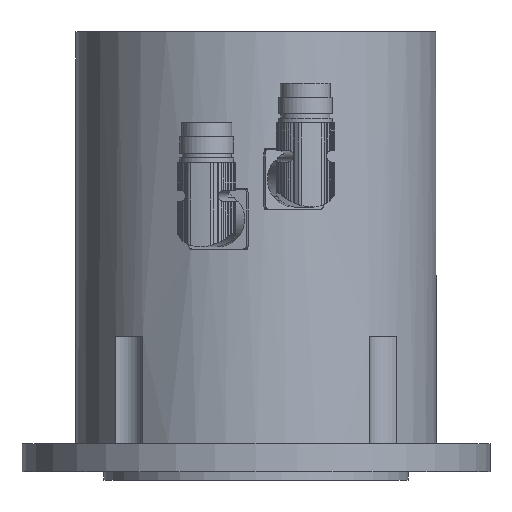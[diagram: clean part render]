
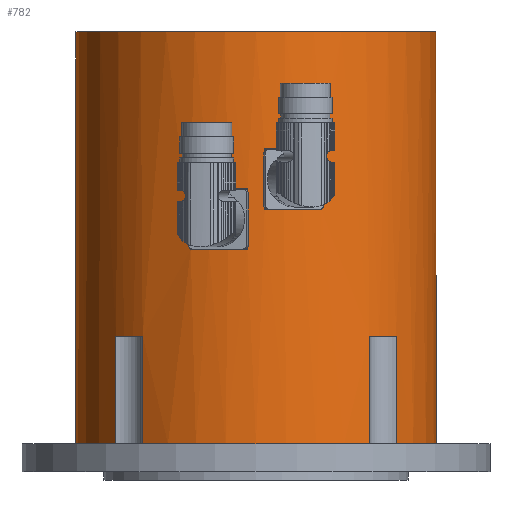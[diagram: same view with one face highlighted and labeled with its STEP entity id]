
A CAD part, left-side view. The second image highlights one B-rep face of the part: STEP entity #782.
In plain terms, the highlighted cylindrical face has radius 77 mm (diameter 154 mm), a full revolution.
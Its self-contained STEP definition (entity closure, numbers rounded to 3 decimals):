
#225=LINE('',#5369,#401);
#226=LINE('',#5371,#402);
#229=LINE('',#5382,#405);
#230=LINE('',#5384,#406);
#232=LINE('',#5390,#408);
#233=LINE('',#5395,#409);
#234=LINE('',#5399,#410);
#235=LINE('',#5403,#411);
#236=LINE('',#5407,#412);
#237=LINE('',#5411,#413);
#238=LINE('',#5415,#414);
#239=LINE('',#5419,#415);
#401=VECTOR('',#4343,1.);
#402=VECTOR('',#4344,1.);
#405=VECTOR('',#4357,1.);
#406=VECTOR('',#4358,1.);
#408=VECTOR('',#4366,1.);
#409=VECTOR('',#4369,1.);
#410=VECTOR('',#4372,1.);
#411=VECTOR('',#4375,1.);
#412=VECTOR('',#4378,1.);
#413=VECTOR('',#4381,1.);
#414=VECTOR('',#4384,1.);
#415=VECTOR('',#4387,1.);
#591=CYLINDRICAL_SURFACE('',#3848,77.);
#782=ADVANCED_FACE('',(#1056,#1057,#1058,#1059),#591,.T.);
#1056=FACE_BOUND('',#1351,.T.);
#1057=FACE_BOUND('',#1352,.T.);
#1058=FACE_BOUND('',#1353,.T.);
#1059=FACE_BOUND('',#1354,.T.);
#1351=EDGE_LOOP('',(#1634,#1635,#1636,#1637,#1638,#1639,#1640,#1641,#1642,
#1643,#1644,#1645,#1646,#1647,#1648,#1649));
#1352=EDGE_LOOP('',(#1650));
#1353=EDGE_LOOP('',(#1651,#1652,#1653,#1654));
#1354=EDGE_LOOP('',(#1655,#1656,#1657,#1658));
#1634=ORIENTED_EDGE('',*,*,#3052,.F.);
#1635=ORIENTED_EDGE('',*,*,#3053,.F.);
#1636=ORIENTED_EDGE('',*,*,#3054,.F.);
#1637=ORIENTED_EDGE('',*,*,#3055,.F.);
#1638=ORIENTED_EDGE('',*,*,#3056,.F.);
#1639=ORIENTED_EDGE('',*,*,#3057,.F.);
#1640=ORIENTED_EDGE('',*,*,#3058,.F.);
#1641=ORIENTED_EDGE('',*,*,#3059,.F.);
#1642=ORIENTED_EDGE('',*,*,#3060,.F.);
#1643=ORIENTED_EDGE('',*,*,#3061,.F.);
#1644=ORIENTED_EDGE('',*,*,#3062,.F.);
#1645=ORIENTED_EDGE('',*,*,#3063,.F.);
#1646=ORIENTED_EDGE('',*,*,#3064,.F.);
#1647=ORIENTED_EDGE('',*,*,#3065,.F.);
#1648=ORIENTED_EDGE('',*,*,#3066,.F.);
#1649=ORIENTED_EDGE('',*,*,#3067,.F.);
#1650=ORIENTED_EDGE('',*,*,#3039,.T.);
#1651=ORIENTED_EDGE('',*,*,#3051,.F.);
#1652=ORIENTED_EDGE('',*,*,#3049,.F.);
#1653=ORIENTED_EDGE('',*,*,#3047,.F.);
#1654=ORIENTED_EDGE('',*,*,#3048,.F.);
#1655=ORIENTED_EDGE('',*,*,#3045,.F.);
#1656=ORIENTED_EDGE('',*,*,#3043,.F.);
#1657=ORIENTED_EDGE('',*,*,#3041,.F.);
#1658=ORIENTED_EDGE('',*,*,#3042,.F.);
#2664=VERTEX_POINT('',#5362);
#2665=VERTEX_POINT('',#5365);
#2666=VERTEX_POINT('',#5366);
#2667=VERTEX_POINT('',#5370);
#2668=VERTEX_POINT('',#5372);
#2669=VERTEX_POINT('',#5378);
#2670=VERTEX_POINT('',#5379);
#2671=VERTEX_POINT('',#5383);
#2672=VERTEX_POINT('',#5385);
#2673=VERTEX_POINT('',#5391);
#2674=VERTEX_POINT('',#5392);
#2675=VERTEX_POINT('',#5394);
#2676=VERTEX_POINT('',#5396);
#2677=VERTEX_POINT('',#5398);
#2678=VERTEX_POINT('',#5400);
#2679=VERTEX_POINT('',#5402);
#2680=VERTEX_POINT('',#5404);
#2681=VERTEX_POINT('',#5406);
#2682=VERTEX_POINT('',#5408);
#2683=VERTEX_POINT('',#5410);
#2684=VERTEX_POINT('',#5412);
#2685=VERTEX_POINT('',#5414);
#2686=VERTEX_POINT('',#5416);
#2687=VERTEX_POINT('',#5418);
#2688=VERTEX_POINT('',#5420);
#3039=EDGE_CURVE('',#2664,#2664,#3577,.T.);
#3041=EDGE_CURVE('',#2665,#2666,#3578,.T.);
#3042=EDGE_CURVE('',#2667,#2665,#225,.T.);
#3043=EDGE_CURVE('',#2666,#2668,#226,.T.);
#3045=EDGE_CURVE('',#2668,#2667,#3579,.T.);
#3047=EDGE_CURVE('',#2669,#2670,#3580,.T.);
#3048=EDGE_CURVE('',#2671,#2669,#229,.T.);
#3049=EDGE_CURVE('',#2670,#2672,#230,.T.);
#3051=EDGE_CURVE('',#2672,#2671,#3581,.T.);
#3052=EDGE_CURVE('',#2673,#2674,#232,.T.);
#3053=EDGE_CURVE('',#2675,#2673,#3582,.T.);
#3054=EDGE_CURVE('',#2676,#2675,#233,.T.);
#3055=EDGE_CURVE('',#2677,#2676,#3583,.T.);
#3056=EDGE_CURVE('',#2678,#2677,#234,.T.);
#3057=EDGE_CURVE('',#2679,#2678,#3584,.T.);
#3058=EDGE_CURVE('',#2680,#2679,#235,.T.);
#3059=EDGE_CURVE('',#2681,#2680,#3585,.T.);
#3060=EDGE_CURVE('',#2682,#2681,#236,.T.);
#3061=EDGE_CURVE('',#2683,#2682,#3586,.T.);
#3062=EDGE_CURVE('',#2684,#2683,#237,.T.);
#3063=EDGE_CURVE('',#2685,#2684,#3587,.T.);
#3064=EDGE_CURVE('',#2686,#2685,#238,.T.);
#3065=EDGE_CURVE('',#2687,#2686,#3588,.T.);
#3066=EDGE_CURVE('',#2688,#2687,#239,.T.);
#3067=EDGE_CURVE('',#2674,#2688,#3589,.T.);
#3577=CIRCLE('',#3828,77.);
#3578=CIRCLE('',#3830,77.);
#3579=CIRCLE('',#3833,77.);
#3580=CIRCLE('',#3835,77.);
#3581=CIRCLE('',#3838,77.);
#3582=CIRCLE('',#3840,77.);
#3583=CIRCLE('',#3841,77.);
#3584=CIRCLE('',#3842,77.);
#3585=CIRCLE('',#3843,77.);
#3586=CIRCLE('',#3844,77.);
#3587=CIRCLE('',#3845,77.);
#3588=CIRCLE('',#3846,77.);
#3589=CIRCLE('',#3847,77.);
#3828=AXIS2_PLACEMENT_3D('',#5361,#4334,#4335);
#3830=AXIS2_PLACEMENT_3D('',#5367,#4339,#4340);
#3833=AXIS2_PLACEMENT_3D('',#5375,#4348,#4349);
#3835=AXIS2_PLACEMENT_3D('',#5380,#4353,#4354);
#3838=AXIS2_PLACEMENT_3D('',#5388,#4362,#4363);
#3840=AXIS2_PLACEMENT_3D('',#5393,#4367,#4368);
#3841=AXIS2_PLACEMENT_3D('',#5397,#4370,#4371);
#3842=AXIS2_PLACEMENT_3D('',#5401,#4373,#4374);
#3843=AXIS2_PLACEMENT_3D('',#5405,#4376,#4377);
#3844=AXIS2_PLACEMENT_3D('',#5409,#4379,#4380);
#3845=AXIS2_PLACEMENT_3D('',#5413,#4382,#4383);
#3846=AXIS2_PLACEMENT_3D('',#5417,#4385,#4386);
#3847=AXIS2_PLACEMENT_3D('',#5421,#4388,#4389);
#3848=AXIS2_PLACEMENT_3D('',#5422,#4390,#4391);
#4334=DIRECTION('',(0.,0.,-1.));
#4335=DIRECTION('',(-1.,0.,0.));
#4339=DIRECTION('',(0.,0.,1.));
#4340=DIRECTION('',(-1.,0.,0.));
#4343=DIRECTION('',(0.,0.,-1.));
#4344=DIRECTION('',(0.,0.,1.));
#4348=DIRECTION('',(0.,0.,-1.));
#4349=DIRECTION('',(1.,0.,0.));
#4353=DIRECTION('',(0.,0.,1.));
#4354=DIRECTION('',(-1.,0.,0.));
#4357=DIRECTION('',(0.,0.,-1.));
#4358=DIRECTION('',(0.,0.,1.));
#4362=DIRECTION('',(0.,0.,-1.));
#4363=DIRECTION('',(1.,0.,0.));
#4366=DIRECTION('',(0.,0.,1.));
#4367=DIRECTION('',(0.,0.,-1.));
#4368=DIRECTION('',(1.,0.,0.));
#4369=DIRECTION('',(0.,0.,-1.));
#4370=DIRECTION('',(0.,0.,-1.));
#4371=DIRECTION('',(-1.,0.,0.));
#4372=DIRECTION('',(0.,0.,1.));
#4373=DIRECTION('',(0.,0.,-1.));
#4374=DIRECTION('',(1.,0.,0.));
#4375=DIRECTION('',(0.,0.,-1.));
#4376=DIRECTION('',(0.,0.,-1.));
#4377=DIRECTION('',(-1.,0.,0.));
#4378=DIRECTION('',(0.,0.,1.));
#4379=DIRECTION('',(0.,0.,-1.));
#4380=DIRECTION('',(1.,0.,0.));
#4381=DIRECTION('',(0.,0.,-1.));
#4382=DIRECTION('',(0.,0.,-1.));
#4383=DIRECTION('',(-1.,0.,0.));
#4384=DIRECTION('',(0.,0.,1.));
#4385=DIRECTION('',(0.,0.,-1.));
#4386=DIRECTION('',(1.,0.,0.));
#4387=DIRECTION('',(0.,0.,-1.));
#4388=DIRECTION('',(0.,0.,-1.));
#4389=DIRECTION('',(-1.,0.,0.));
#4390=DIRECTION('',(0.,0.,1.));
#4391=DIRECTION('',(1.,0.,0.));
#5361=CARTESIAN_POINT('',(0.,0.,176.));
#5362=CARTESIAN_POINT('',(-77.,0.,176.));
#5365=CARTESIAN_POINT('',(-71.767,27.9,83.));
#5366=CARTESIAN_POINT('',(-76.911,3.702,83.));
#5367=CARTESIAN_POINT('',(0.,0.,83.));
#5369=CARTESIAN_POINT('',(-71.767,27.9,0.));
#5370=CARTESIAN_POINT('',(-71.767,27.9,109.));
#5371=CARTESIAN_POINT('',(-76.911,3.702,0.));
#5372=CARTESIAN_POINT('',(-76.911,3.702,109.));
#5375=CARTESIAN_POINT('',(0.,0.,109.));
#5378=CARTESIAN_POINT('',(-76.911,-3.702,100.));
#5379=CARTESIAN_POINT('',(-71.767,-27.9,100.));
#5380=CARTESIAN_POINT('',(0.,0.,100.));
#5382=CARTESIAN_POINT('',(-76.911,-3.702,0.));
#5383=CARTESIAN_POINT('',(-76.911,-3.702,126.));
#5384=CARTESIAN_POINT('',(-71.767,-27.9,0.));
#5385=CARTESIAN_POINT('',(-71.767,-27.9,126.));
#5388=CARTESIAN_POINT('',(0.,0.,126.));
#5390=CARTESIAN_POINT('',(-48.451,-59.846,23.));
#5391=CARTESIAN_POINT('',(-48.451,-59.846,0.));
#5392=CARTESIAN_POINT('',(-48.451,-59.846,46.));
#5393=CARTESIAN_POINT('',(0.,0.,0.));
#5394=CARTESIAN_POINT('',(48.451,-59.846,0.));
#5395=CARTESIAN_POINT('',(48.451,-59.846,23.));
#5396=CARTESIAN_POINT('',(48.451,-59.846,46.));
#5397=CARTESIAN_POINT('',(0.,0.,46.));
#5398=CARTESIAN_POINT('',(59.846,-48.451,46.));
#5399=CARTESIAN_POINT('',(59.846,-48.451,23.));
#5400=CARTESIAN_POINT('',(59.846,-48.451,0.));
#5401=CARTESIAN_POINT('',(0.,0.,0.));
#5402=CARTESIAN_POINT('',(59.846,48.451,0.));
#5403=CARTESIAN_POINT('',(59.846,48.451,23.));
#5404=CARTESIAN_POINT('',(59.846,48.451,46.));
#5405=CARTESIAN_POINT('',(0.,0.,46.));
#5406=CARTESIAN_POINT('',(48.451,59.846,46.));
#5407=CARTESIAN_POINT('',(48.451,59.846,23.));
#5408=CARTESIAN_POINT('',(48.451,59.846,0.));
#5409=CARTESIAN_POINT('',(0.,0.,0.));
#5410=CARTESIAN_POINT('',(-48.451,59.846,0.));
#5411=CARTESIAN_POINT('',(-48.451,59.846,23.));
#5412=CARTESIAN_POINT('',(-48.451,59.846,46.));
#5413=CARTESIAN_POINT('',(0.,0.,46.));
#5414=CARTESIAN_POINT('',(-59.846,48.451,46.));
#5415=CARTESIAN_POINT('',(-59.846,48.451,23.));
#5416=CARTESIAN_POINT('',(-59.846,48.451,0.));
#5417=CARTESIAN_POINT('',(0.,0.,0.));
#5418=CARTESIAN_POINT('',(-59.846,-48.451,0.));
#5419=CARTESIAN_POINT('',(-59.846,-48.451,23.));
#5420=CARTESIAN_POINT('',(-59.846,-48.451,46.));
#5421=CARTESIAN_POINT('',(0.,0.,46.));
#5422=CARTESIAN_POINT('',(0.,0.,0.));
